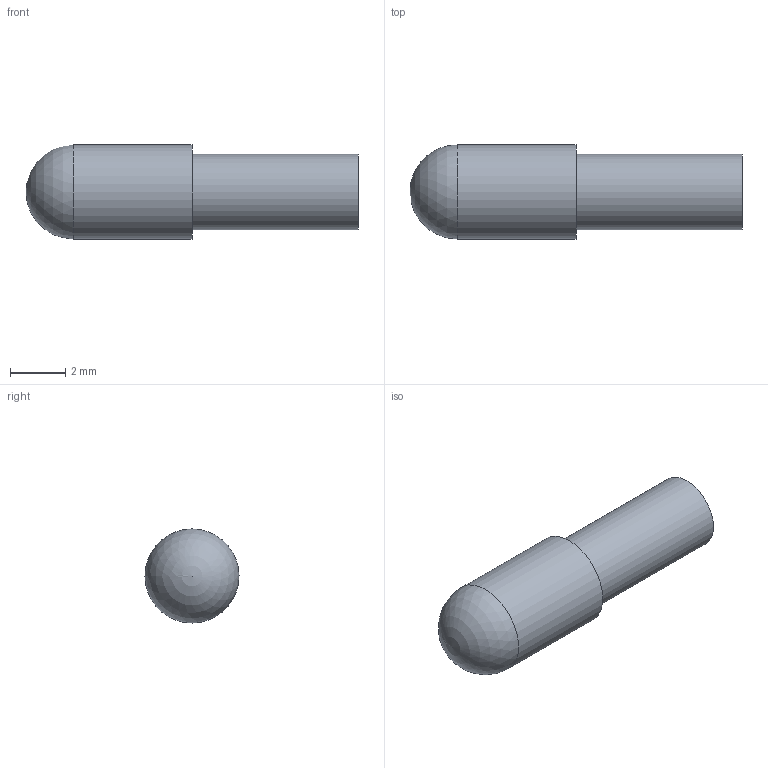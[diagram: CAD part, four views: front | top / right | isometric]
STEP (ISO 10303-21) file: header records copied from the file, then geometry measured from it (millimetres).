
FILE_DESCRIPTION( ( 'STEP AP203' ), '1' );
FILE_NAME( 'C:/Temp/Ganter_Step_05_03_2020/data/3_1/gn610/Spring loaded shell GN 610-3,4-12-H.stp', '2020-03-12T08:33:18', ( 'License CC BY-ND 4.0' ), ( 'CADENAS' ), ' ', 'PARTsolutions', ' ' );
FILE_SCHEMA( ( 'CONFIG_CONTROL_DESIGN' ) );
Length unit declared in the file: millimetre
Products named in the file (1): _Spring loaded shell GN 610-3,4-12-H
Bounding box: 12 x 3.4 x 3.4 mm (x, y, z)
Volume: 54.3 mm3; surface area: 171.9 mm2
Topology: 1 solids, 1 shells, 7 faces, 12 edges, 8 vertices
Faces by surface type: cylinder 3, plane 3, sphere 1
Full cylindrical faces by diameter (mm): 2.52 x1, 2.72 x1, 3.4 x1
Entity records: 182 total; most frequent: DIRECTION 28, CARTESIAN_POINT 21, AXIS2_PLACEMENT_3D 14, EDGE_LOOP 12, ORIENTED_EDGE 12, FACE_OUTER_BOUND 10, ADVANCED_FACE 7, VERTEX_POINT 7
